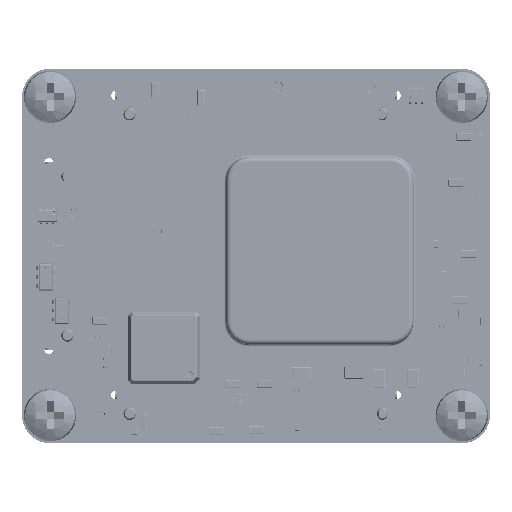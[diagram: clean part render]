
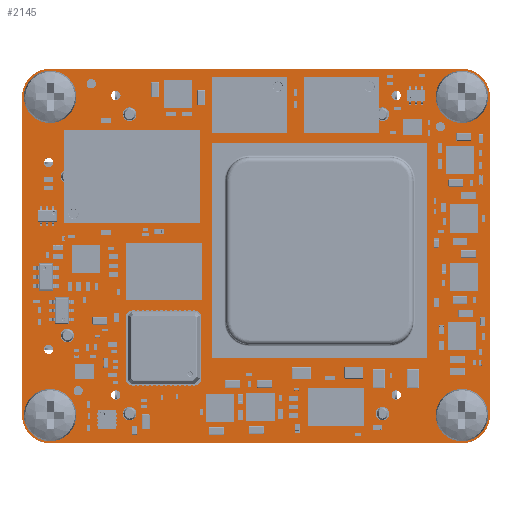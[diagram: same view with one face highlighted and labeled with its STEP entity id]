
A CAD part, top view. The second image highlights one B-rep face of the part: STEP entity #2145.
In plain terms, the highlighted planar face has unit normal (0, 0, 1).
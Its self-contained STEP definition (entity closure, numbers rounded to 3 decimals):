
#1304 = VERTEX_POINT('',#1305);
#1305 = CARTESIAN_POINT('',(0.,3.,1.781));
#1311 = EDGE_CURVE('',#1304,#1312,#1314,.T.);
#1312 = VERTEX_POINT('',#1313);
#1313 = CARTESIAN_POINT('',(3.,0.,1.781));
#1314 = CIRCLE('',#1315,3.001);
#1315 = AXIS2_PLACEMENT_3D('',#1316,#1317,#1318);
#1316 = CARTESIAN_POINT('',(3.001,3.001,1.781));
#1317 = DIRECTION('',(0.,0.,1.));
#1318 = DIRECTION('',(-1.,0.,0.));
#1344 = EDGE_CURVE('',#1312,#1345,#1347,.T.);
#1345 = VERTEX_POINT('',#1346);
#1346 = CARTESIAN_POINT('',(47.,0.,1.781));
#1347 = LINE('',#1348,#1349);
#1348 = CARTESIAN_POINT('',(3.,0.,1.781));
#1349 = VECTOR('',#1350,1.);
#1350 = DIRECTION('',(1.,0.,0.));
#1375 = EDGE_CURVE('',#1345,#1376,#1378,.T.);
#1376 = VERTEX_POINT('',#1377);
#1377 = CARTESIAN_POINT('',(50.,3.,1.781));
#1378 = CIRCLE('',#1379,3.001);
#1379 = AXIS2_PLACEMENT_3D('',#1380,#1381,#1382);
#1380 = CARTESIAN_POINT('',(46.999,3.001,1.781));
#1381 = DIRECTION('',(0.,0.,1.));
#1382 = DIRECTION('',(0.,-1.,0.));
#1408 = EDGE_CURVE('',#1376,#1409,#1411,.T.);
#1409 = VERTEX_POINT('',#1410);
#1410 = CARTESIAN_POINT('',(50.,37.,1.781));
#1411 = LINE('',#1412,#1413);
#1412 = CARTESIAN_POINT('',(50.,3.,1.781));
#1413 = VECTOR('',#1414,1.);
#1414 = DIRECTION('',(0.,1.,0.));
#1439 = EDGE_CURVE('',#1409,#1440,#1442,.T.);
#1440 = VERTEX_POINT('',#1441);
#1441 = CARTESIAN_POINT('',(47.,40.,1.781));
#1442 = CIRCLE('',#1443,3.001);
#1443 = AXIS2_PLACEMENT_3D('',#1444,#1445,#1446);
#1444 = CARTESIAN_POINT('',(46.999,36.999,1.781)
  );
#1445 = DIRECTION('',(0.,0.,1.));
#1446 = DIRECTION('',(1.,0.,-0.));
#1472 = EDGE_CURVE('',#1440,#1473,#1475,.T.);
#1473 = VERTEX_POINT('',#1474);
#1474 = CARTESIAN_POINT('',(3.,40.,1.781));
#1475 = LINE('',#1476,#1477);
#1476 = CARTESIAN_POINT('',(47.,40.,1.781));
#1477 = VECTOR('',#1478,1.);
#1478 = DIRECTION('',(-1.,0.,0.));
#1503 = EDGE_CURVE('',#1473,#1504,#1506,.T.);
#1504 = VERTEX_POINT('',#1505);
#1505 = CARTESIAN_POINT('',(0.,37.,1.781));
#1506 = CIRCLE('',#1507,3.001);
#1507 = AXIS2_PLACEMENT_3D('',#1508,#1509,#1510);
#1508 = CARTESIAN_POINT('',(3.001,36.999,1.781));
#1509 = DIRECTION('',(0.,0.,1.));
#1510 = DIRECTION('',(0.,1.,0.));
#1536 = EDGE_CURVE('',#1504,#1304,#1537,.T.);
#1537 = LINE('',#1538,#1539);
#1538 = CARTESIAN_POINT('',(0.,37.,1.781));
#1539 = VECTOR('',#1540,1.);
#1540 = DIRECTION('',(0.,-1.,0.));
#1560 = VERTEX_POINT('',#1561);
#1561 = CARTESIAN_POINT('',(4.6,3.,1.781));
#1567 = EDGE_CURVE('',#1560,#1560,#1568,.T.);
#1568 = CIRCLE('',#1569,1.6);
#1569 = AXIS2_PLACEMENT_3D('',#1570,#1571,#1572);
#1570 = CARTESIAN_POINT('',(3.,3.,1.781));
#1571 = DIRECTION('',(0.,0.,1.));
#1572 = DIRECTION('',(1.,0.,-0.));
#1593 = VERTEX_POINT('',#1594);
#1594 = CARTESIAN_POINT('',(3.35,10.025,1.781));
#1600 = EDGE_CURVE('',#1593,#1593,#1601,.T.);
#1601 = CIRCLE('',#1602,0.5);
#1602 = AXIS2_PLACEMENT_3D('',#1603,#1604,#1605);
#1603 = CARTESIAN_POINT('',(2.85,10.025,1.781));
#1604 = DIRECTION('',(0.,0.,1.));
#1605 = DIRECTION('',(1.,0.,-0.));
#1626 = VERTEX_POINT('',#1627);
#1627 = CARTESIAN_POINT('',(10.525,5.15,1.781));
#1633 = EDGE_CURVE('',#1626,#1626,#1634,.T.);
#1634 = CIRCLE('',#1635,0.5);
#1635 = AXIS2_PLACEMENT_3D('',#1636,#1637,#1638);
#1636 = CARTESIAN_POINT('',(10.025,5.15,1.781));
#1637 = DIRECTION('',(0.,0.,1.));
#1638 = DIRECTION('',(1.,0.,-0.));
#1659 = VERTEX_POINT('',#1660);
#1660 = CARTESIAN_POINT('',(5.575,11.5,1.781));
#1666 = EDGE_CURVE('',#1659,#1659,#1667,.T.);
#1667 = CIRCLE('',#1668,0.725);
#1668 = AXIS2_PLACEMENT_3D('',#1669,#1670,#1671);
#1669 = CARTESIAN_POINT('',(4.85,11.5,1.781));
#1670 = DIRECTION('',(0.,0.,1.));
#1671 = DIRECTION('',(1.,0.,-0.));
#1692 = VERTEX_POINT('',#1693);
#1693 = CARTESIAN_POINT('',(3.35,29.975,1.781));
#1699 = EDGE_CURVE('',#1692,#1692,#1700,.T.);
#1700 = CIRCLE('',#1701,0.5);
#1701 = AXIS2_PLACEMENT_3D('',#1702,#1703,#1704);
#1702 = CARTESIAN_POINT('',(2.85,29.975,1.781));
#1703 = DIRECTION('',(0.,0.,1.));
#1704 = DIRECTION('',(1.,0.,-0.));
#1725 = VERTEX_POINT('',#1726);
#1726 = CARTESIAN_POINT('',(4.6,37.,1.781));
#1732 = EDGE_CURVE('',#1725,#1725,#1733,.T.);
#1733 = CIRCLE('',#1734,1.6);
#1734 = AXIS2_PLACEMENT_3D('',#1735,#1736,#1737);
#1735 = CARTESIAN_POINT('',(3.,37.,1.781));
#1736 = DIRECTION('',(0.,0.,1.));
#1737 = DIRECTION('',(1.,0.,-0.));
#1758 = VERTEX_POINT('',#1759);
#1759 = CARTESIAN_POINT('',(5.575,28.5,1.781));
#1765 = EDGE_CURVE('',#1758,#1758,#1766,.T.);
#1766 = CIRCLE('',#1767,0.725);
#1767 = AXIS2_PLACEMENT_3D('',#1768,#1769,#1770);
#1768 = CARTESIAN_POINT('',(4.85,28.5,1.781));
#1769 = DIRECTION('',(0.,0.,1.));
#1770 = DIRECTION('',(1.,0.,-0.));
#1791 = VERTEX_POINT('',#1792);
#1792 = CARTESIAN_POINT('',(10.525,37.15,1.781));
#1798 = EDGE_CURVE('',#1791,#1791,#1799,.T.);
#1799 = CIRCLE('',#1800,0.5);
#1800 = AXIS2_PLACEMENT_3D('',#1801,#1802,#1803);
#1801 = CARTESIAN_POINT('',(10.025,37.15,1.781));
#1802 = DIRECTION('',(0.,0.,1.));
#1803 = DIRECTION('',(1.,0.,-0.));
#1824 = VERTEX_POINT('',#1825);
#1825 = CARTESIAN_POINT('',(39.225,3.15,1.781));
#1831 = EDGE_CURVE('',#1824,#1824,#1832,.T.);
#1832 = CIRCLE('',#1833,0.725);
#1833 = AXIS2_PLACEMENT_3D('',#1834,#1835,#1836);
#1834 = CARTESIAN_POINT('',(38.5,3.15,1.781));
#1835 = DIRECTION('',(0.,0.,1.));
#1836 = DIRECTION('',(1.,0.,-0.));
#1857 = VERTEX_POINT('',#1858);
#1858 = CARTESIAN_POINT('',(12.225,3.15,1.781));
#1864 = EDGE_CURVE('',#1857,#1857,#1865,.T.);
#1865 = CIRCLE('',#1866,0.725);
#1866 = AXIS2_PLACEMENT_3D('',#1867,#1868,#1869);
#1867 = CARTESIAN_POINT('',(11.5,3.15,1.781));
#1868 = DIRECTION('',(0.,0.,1.));
#1869 = DIRECTION('',(1.,0.,-0.));
#1890 = VERTEX_POINT('',#1891);
#1891 = CARTESIAN_POINT('',(48.6,3.,1.781));
#1897 = EDGE_CURVE('',#1890,#1890,#1898,.T.);
#1898 = CIRCLE('',#1899,1.6);
#1899 = AXIS2_PLACEMENT_3D('',#1900,#1901,#1902);
#1900 = CARTESIAN_POINT('',(47.,3.,1.781));
#1901 = DIRECTION('',(0.,0.,1.));
#1902 = DIRECTION('',(1.,0.,-0.));
#1923 = VERTEX_POINT('',#1924);
#1924 = CARTESIAN_POINT('',(40.475,5.15,1.781));
#1930 = EDGE_CURVE('',#1923,#1923,#1931,.T.);
#1931 = CIRCLE('',#1932,0.5);
#1932 = AXIS2_PLACEMENT_3D('',#1933,#1934,#1935);
#1933 = CARTESIAN_POINT('',(39.975,5.15,1.781));
#1934 = DIRECTION('',(0.,0.,1.));
#1935 = DIRECTION('',(1.,0.,-0.));
#1956 = VERTEX_POINT('',#1957);
#1957 = CARTESIAN_POINT('',(39.225,35.15,1.781));
#1963 = EDGE_CURVE('',#1956,#1956,#1964,.T.);
#1964 = CIRCLE('',#1965,0.725);
#1965 = AXIS2_PLACEMENT_3D('',#1966,#1967,#1968);
#1966 = CARTESIAN_POINT('',(38.5,35.15,1.781));
#1967 = DIRECTION('',(0.,0.,1.));
#1968 = DIRECTION('',(1.,0.,-0.));
#1989 = VERTEX_POINT('',#1990);
#1990 = CARTESIAN_POINT('',(12.225,35.15,1.781));
#1996 = EDGE_CURVE('',#1989,#1989,#1997,.T.);
#1997 = CIRCLE('',#1998,0.725);
#1998 = AXIS2_PLACEMENT_3D('',#1999,#2000,#2001);
#1999 = CARTESIAN_POINT('',(11.5,35.15,1.781));
#2000 = DIRECTION('',(0.,0.,1.));
#2001 = DIRECTION('',(1.,0.,-0.));
#2022 = VERTEX_POINT('',#2023);
#2023 = CARTESIAN_POINT('',(40.475,37.15,1.781));
#2029 = EDGE_CURVE('',#2022,#2022,#2030,.T.);
#2030 = CIRCLE('',#2031,0.5);
#2031 = AXIS2_PLACEMENT_3D('',#2032,#2033,#2034);
#2032 = CARTESIAN_POINT('',(39.975,37.15,1.781));
#2033 = DIRECTION('',(0.,0.,1.));
#2034 = DIRECTION('',(1.,0.,-0.));
#2055 = VERTEX_POINT('',#2056);
#2056 = CARTESIAN_POINT('',(48.6,37.,1.781));
#2062 = EDGE_CURVE('',#2055,#2055,#2063,.T.);
#2063 = CIRCLE('',#2064,1.6);
#2064 = AXIS2_PLACEMENT_3D('',#2065,#2066,#2067);
#2065 = CARTESIAN_POINT('',(47.,37.,1.781));
#2066 = DIRECTION('',(0.,0.,1.));
#2067 = DIRECTION('',(1.,0.,-0.));
#2145 = ADVANCED_FACE('',(#2146,#2156,#2159,#2162,#2165,#2168,#2171,
    #2174,#2177,#2180,#2183,#2186,#2189,#2192,#2195,#2198,#2201),#2204,
  .T.);
#2146 = FACE_BOUND('',#2147,.T.);
#2147 = EDGE_LOOP('',(#2148,#2149,#2150,#2151,#2152,#2153,#2154,#2155));
#2148 = ORIENTED_EDGE('',*,*,#1311,.T.);
#2149 = ORIENTED_EDGE('',*,*,#1344,.T.);
#2150 = ORIENTED_EDGE('',*,*,#1375,.T.);
#2151 = ORIENTED_EDGE('',*,*,#1408,.T.);
#2152 = ORIENTED_EDGE('',*,*,#1439,.T.);
#2153 = ORIENTED_EDGE('',*,*,#1472,.T.);
#2154 = ORIENTED_EDGE('',*,*,#1503,.T.);
#2155 = ORIENTED_EDGE('',*,*,#1536,.T.);
#2156 = FACE_BOUND('',#2157,.T.);
#2157 = EDGE_LOOP('',(#2158));
#2158 = ORIENTED_EDGE('',*,*,#1567,.F.);
#2159 = FACE_BOUND('',#2160,.T.);
#2160 = EDGE_LOOP('',(#2161));
#2161 = ORIENTED_EDGE('',*,*,#1600,.F.);
#2162 = FACE_BOUND('',#2163,.T.);
#2163 = EDGE_LOOP('',(#2164));
#2164 = ORIENTED_EDGE('',*,*,#1633,.F.);
#2165 = FACE_BOUND('',#2166,.T.);
#2166 = EDGE_LOOP('',(#2167));
#2167 = ORIENTED_EDGE('',*,*,#1666,.F.);
#2168 = FACE_BOUND('',#2169,.T.);
#2169 = EDGE_LOOP('',(#2170));
#2170 = ORIENTED_EDGE('',*,*,#1699,.F.);
#2171 = FACE_BOUND('',#2172,.T.);
#2172 = EDGE_LOOP('',(#2173));
#2173 = ORIENTED_EDGE('',*,*,#1732,.F.);
#2174 = FACE_BOUND('',#2175,.T.);
#2175 = EDGE_LOOP('',(#2176));
#2176 = ORIENTED_EDGE('',*,*,#1765,.F.);
#2177 = FACE_BOUND('',#2178,.T.);
#2178 = EDGE_LOOP('',(#2179));
#2179 = ORIENTED_EDGE('',*,*,#1798,.F.);
#2180 = FACE_BOUND('',#2181,.T.);
#2181 = EDGE_LOOP('',(#2182));
#2182 = ORIENTED_EDGE('',*,*,#1831,.F.);
#2183 = FACE_BOUND('',#2184,.T.);
#2184 = EDGE_LOOP('',(#2185));
#2185 = ORIENTED_EDGE('',*,*,#1864,.F.);
#2186 = FACE_BOUND('',#2187,.T.);
#2187 = EDGE_LOOP('',(#2188));
#2188 = ORIENTED_EDGE('',*,*,#1897,.F.);
#2189 = FACE_BOUND('',#2190,.T.);
#2190 = EDGE_LOOP('',(#2191));
#2191 = ORIENTED_EDGE('',*,*,#1930,.F.);
#2192 = FACE_BOUND('',#2193,.T.);
#2193 = EDGE_LOOP('',(#2194));
#2194 = ORIENTED_EDGE('',*,*,#1963,.F.);
#2195 = FACE_BOUND('',#2196,.T.);
#2196 = EDGE_LOOP('',(#2197));
#2197 = ORIENTED_EDGE('',*,*,#1996,.F.);
#2198 = FACE_BOUND('',#2199,.T.);
#2199 = EDGE_LOOP('',(#2200));
#2200 = ORIENTED_EDGE('',*,*,#2029,.F.);
#2201 = FACE_BOUND('',#2202,.T.);
#2202 = EDGE_LOOP('',(#2203));
#2203 = ORIENTED_EDGE('',*,*,#2062,.F.);
#2204 = PLANE('',#2205);
#2205 = AXIS2_PLACEMENT_3D('',#2206,#2207,#2208);
#2206 = CARTESIAN_POINT('',(25.,20.,1.781));
#2207 = DIRECTION('',(0.,0.,1.));
#2208 = DIRECTION('',(1.,0.,-0.));
